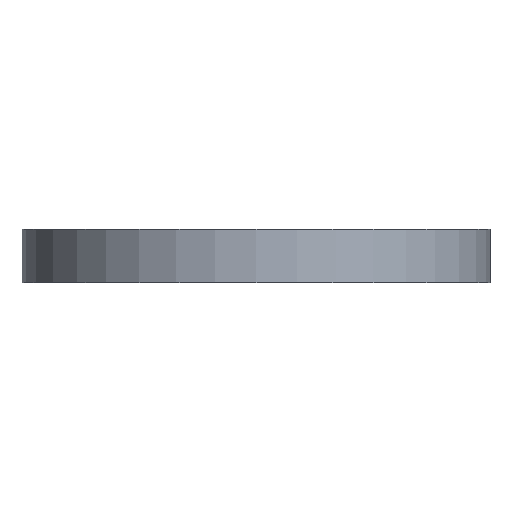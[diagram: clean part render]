
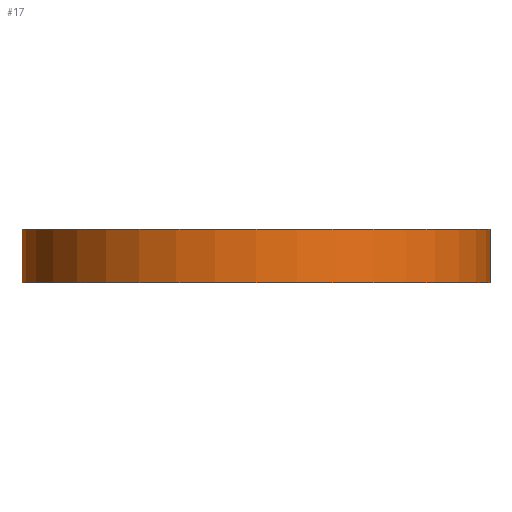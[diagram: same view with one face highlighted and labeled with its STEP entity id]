
A CAD part, front view. The second image highlights one B-rep face of the part: STEP entity #17.
In plain terms, the highlighted cylindrical face has radius 18.05 mm (diameter 36.1 mm), a full revolution.
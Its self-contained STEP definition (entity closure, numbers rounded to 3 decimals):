
#17 = ADVANCED_FACE('',(#18),#32,.T.);
#18 = FACE_BOUND('',#19,.F.);
#19 = EDGE_LOOP('',(#20,#50,#77,#78));
#20 = ORIENTED_EDGE('',*,*,#21,.T.);
#21 = EDGE_CURVE('',#22,#24,#26,.T.);
#22 = VERTEX_POINT('',#23);
#23 = CARTESIAN_POINT('',(18.05,0.,0.597));
#24 = VERTEX_POINT('',#25);
#25 = CARTESIAN_POINT('',(18.05,0.,4.75));
#26 = SEAM_CURVE('',#27,(#31,#43),.PCURVE_S1.);
#27 = LINE('',#28,#29);
#28 = CARTESIAN_POINT('',(18.05,0.,0.597));
#29 = VECTOR('',#30,1.);
#30 = DIRECTION('',(0.,0.,1.));
#31 = PCURVE('',#32,#37);
#32 = CYLINDRICAL_SURFACE('',#33,18.05);
#33 = AXIS2_PLACEMENT_3D('',#34,#35,#36);
#34 = CARTESIAN_POINT('',(0.,0.,0.597));
#35 = DIRECTION('',(-0.,-0.,-1.));
#36 = DIRECTION('',(1.,0.,0.));
#37 = DEFINITIONAL_REPRESENTATION('',(#38),#42);
#38 = LINE('',#39,#40);
#39 = CARTESIAN_POINT('',(-0.,0.));
#40 = VECTOR('',#41,1.);
#41 = DIRECTION('',(-0.,-1.));
#42 = ( GEOMETRIC_REPRESENTATION_CONTEXT(2) 
PARAMETRIC_REPRESENTATION_CONTEXT() REPRESENTATION_CONTEXT('2D SPACE',''
  ) );
#43 = PCURVE('',#32,#44);
#44 = DEFINITIONAL_REPRESENTATION('',(#45),#49);
#45 = LINE('',#46,#47);
#46 = CARTESIAN_POINT('',(-6.283,0.));
#47 = VECTOR('',#48,1.);
#48 = DIRECTION('',(-0.,-1.));
#49 = ( GEOMETRIC_REPRESENTATION_CONTEXT(2) 
PARAMETRIC_REPRESENTATION_CONTEXT() REPRESENTATION_CONTEXT('2D SPACE',''
  ) );
#50 = ORIENTED_EDGE('',*,*,#51,.T.);
#51 = EDGE_CURVE('',#24,#24,#52,.T.);
#52 = SURFACE_CURVE('',#53,(#58,#65),.PCURVE_S1.);
#53 = CIRCLE('',#54,18.05);
#54 = AXIS2_PLACEMENT_3D('',#55,#56,#57);
#55 = CARTESIAN_POINT('',(0.,0.,4.75));
#56 = DIRECTION('',(0.,0.,1.));
#57 = DIRECTION('',(1.,0.,0.));
#58 = PCURVE('',#32,#59);
#59 = DEFINITIONAL_REPRESENTATION('',(#60),#64);
#60 = LINE('',#61,#62);
#61 = CARTESIAN_POINT('',(-0.,-4.153));
#62 = VECTOR('',#63,1.);
#63 = DIRECTION('',(-1.,0.));
#64 = ( GEOMETRIC_REPRESENTATION_CONTEXT(2) 
PARAMETRIC_REPRESENTATION_CONTEXT() REPRESENTATION_CONTEXT('2D SPACE',''
  ) );
#65 = PCURVE('',#66,#71);
#66 = PLANE('',#67);
#67 = AXIS2_PLACEMENT_3D('',#68,#69,#70);
#68 = CARTESIAN_POINT('',(0.,0.,4.75));
#69 = DIRECTION('',(0.,0.,1.));
#70 = DIRECTION('',(1.,0.,-0.));
#71 = DEFINITIONAL_REPRESENTATION('',(#72),#76);
#72 = CIRCLE('',#73,18.05);
#73 = AXIS2_PLACEMENT_2D('',#74,#75);
#74 = CARTESIAN_POINT('',(0.,0.));
#75 = DIRECTION('',(1.,0.));
#76 = ( GEOMETRIC_REPRESENTATION_CONTEXT(2) 
PARAMETRIC_REPRESENTATION_CONTEXT() REPRESENTATION_CONTEXT('2D SPACE',''
  ) );
#77 = ORIENTED_EDGE('',*,*,#21,.F.);
#78 = ORIENTED_EDGE('',*,*,#79,.F.);
#79 = EDGE_CURVE('',#22,#22,#80,.T.);
#80 = SURFACE_CURVE('',#81,(#86,#93),.PCURVE_S1.);
#81 = CIRCLE('',#82,18.05);
#82 = AXIS2_PLACEMENT_3D('',#83,#84,#85);
#83 = CARTESIAN_POINT('',(0.,0.,0.597));
#84 = DIRECTION('',(0.,0.,1.));
#85 = DIRECTION('',(1.,0.,0.));
#86 = PCURVE('',#32,#87);
#87 = DEFINITIONAL_REPRESENTATION('',(#88),#92);
#88 = LINE('',#89,#90);
#89 = CARTESIAN_POINT('',(-0.,0.));
#90 = VECTOR('',#91,1.);
#91 = DIRECTION('',(-1.,0.));
#92 = ( GEOMETRIC_REPRESENTATION_CONTEXT(2) 
PARAMETRIC_REPRESENTATION_CONTEXT() REPRESENTATION_CONTEXT('2D SPACE',''
  ) );
#93 = PCURVE('',#94,#99);
#94 = PLANE('',#95);
#95 = AXIS2_PLACEMENT_3D('',#96,#97,#98);
#96 = CARTESIAN_POINT('',(0.,0.,
    0.597));
#97 = DIRECTION('',(0.,0.,1.));
#98 = DIRECTION('',(1.,0.,-0.));
#99 = DEFINITIONAL_REPRESENTATION('',(#100),#104);
#100 = CIRCLE('',#101,18.05);
#101 = AXIS2_PLACEMENT_2D('',#102,#103);
#102 = CARTESIAN_POINT('',(0.,0.));
#103 = DIRECTION('',(1.,0.));
#104 = ( GEOMETRIC_REPRESENTATION_CONTEXT(2) 
PARAMETRIC_REPRESENTATION_CONTEXT() REPRESENTATION_CONTEXT('2D SPACE',''
  ) );
